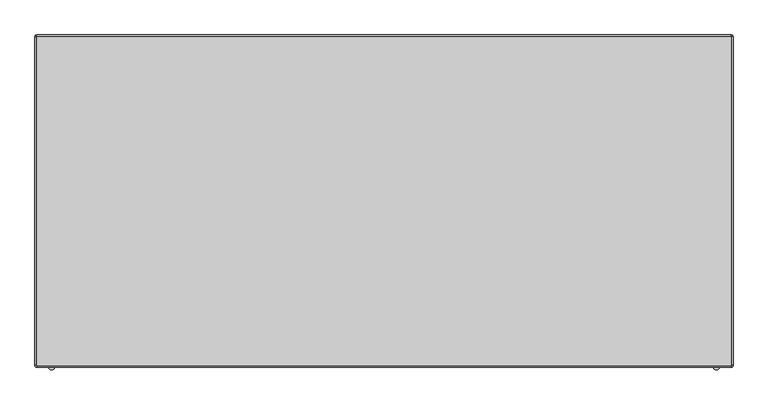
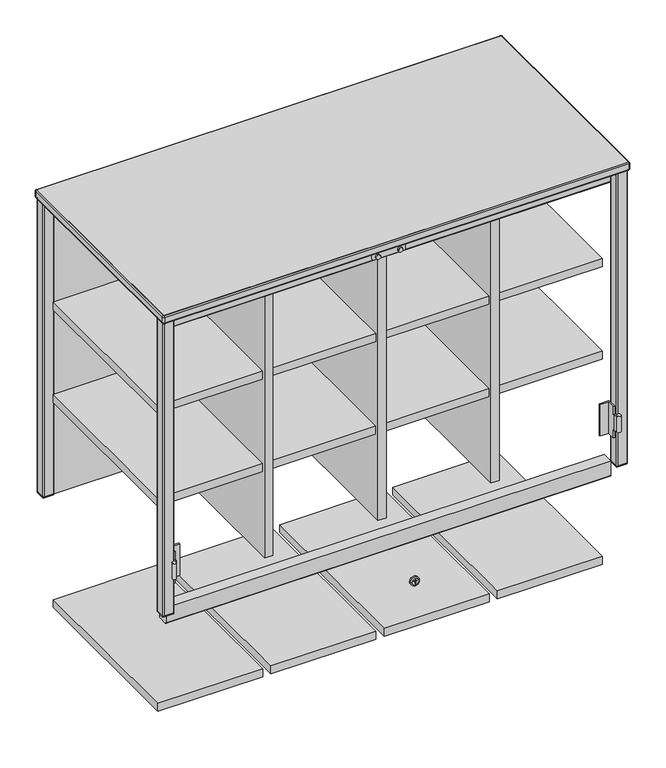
"""IFC4 building model written with IfcOpenShell, lengths in millimetres: furniture geometry, SmithSystem_AM_Storage_Education_Constellate_Stacking_DoubleMidCluster : Upper Cubbies + Lower Cubbies."""

from ifc_helpers import new_model, si_unit, point, frame, frame_2d, origin, place, context, project, spatial, polyline, circle_curve, ellipse_curve, trimmed, segment, composite_curve, outline, extrude, source, transform, mapped, element, save
from ifc_brep_helpers import plane_surface, cylinder_surface, revolved_surface, advanced_brep


def furniture_cb7575b0(model_context):
    return source(origin(), model_context, "Body", "SolidModel", [
        extrude(outline(polyline([(-9.525, -187.96), (-249.2375, -187.96), (-249.2375, 226.06), (-9.525, 226.06), (-9.525, -187.96)])), frame((0.0, 0.0, 1240.79), z_axis=(0.0, 0.0, 1.0), x_axis=(1.0, 0.0, 0.0)), (0.0, 0.0, 1.0), 19.05),
        extrude(outline(polyline([(249.2375, -187.96), (9.525, -187.96), (9.525, 226.06), (249.2375, 226.06), (249.2375, -187.96)])), frame((0.0, 0.0, 1240.79), z_axis=(0.0, 0.0, 1.0), x_axis=(1.0, 0.0, 0.0)), (0.0, 0.0, 1.0), 19.05),
        extrude(outline(polyline([(508.0, -187.96), (268.2875, -187.96), (268.2875, 226.06), (508.0, 226.06), (508.0, -187.96)])), frame((0.0, 0.0, 1240.79), z_axis=(0.0, 0.0, 1.0), x_axis=(1.0, 0.0, 0.0)), (0.0, 0.0, 1.0), 19.05),
        extrude(outline(polyline([(-268.2875, -187.96), (-508.0, -187.96), (-508.0, 226.06), (-268.2875, 226.06), (-268.2875, -187.96)])), frame((0.0, 0.0, 1240.79), z_axis=(0.0, 0.0, 1.0), x_axis=(1.0, 0.0, 0.0)), (0.0, 0.0, 1.0), 19.05),
        advanced_brep(
        [(-504.0801916, -251.2690212, 920.75), (-500.38, -246.38, 920.75), (-500.38, -245.11, 920.75), (-502.92, -245.11, 920.75), (-502.92, -246.38, 920.75), (-505.46, -248.92, 920.75), (-508.0, -248.92, 920.75), (-504.0801916, -251.2690212, 882.65), (-508.0, -248.92, 882.65), (-505.46, -248.92, 882.65), (-502.92, -246.38, 882.65), (-502.92, -245.11, 882.65), (-500.38, -245.11, 882.65), (-500.38, -246.38, 882.65), (-500.38, -245.11, 863.6), (-500.38, -226.06, 863.6), (-500.38, -226.06, 939.8), (-500.38, -245.11, 939.8), (-502.92, -245.11, 939.8), (-502.92, -226.06, 939.8), (-502.92, -226.06, 863.6), (-502.92, -245.11, 863.6), (-500.38, -223.52, 863.6), (-480.06, -223.52, 863.6), (-480.06, -226.06, 863.6), (-500.38, -223.52, 939.8), (-480.06, -226.06, 939.8), (-480.06, -223.52, 939.8)],
        [
            (0, 1, circle_curve(frame((-505.46, -246.38, 920.75), z_axis=(0.0, 0.0, 1.0), x_axis=(0.0, 1.0, 0.0)), 5.08)),
            (1, 2),
            (2, 3),
            (3, 4),
            (4, 5, circle_curve(frame((-505.46, -246.38, 920.75), z_axis=(0.0, 0.0, -1.0), x_axis=(0.0, 1.0, 0.0)), 2.54)),
            (5, 6),
            (6, 0, circle_curve(frame((-508.0, -253.365, 920.75), z_axis=(0.0, 0.0, 1.0), x_axis=(0.0, 1.0, 0.0)), 4.445)),
            (7, 8, circle_curve(frame((-508.0, -253.365, 882.65), z_axis=(0.0, 0.0, -1.0), x_axis=(0.0, 1.0, 0.0)), 4.445)),
            (8, 9),
            (9, 10, circle_curve(frame((-505.46, -246.38, 882.65), z_axis=(0.0, 0.0, 1.0), x_axis=(0.0, 1.0, 0.0)), 2.54)),
            (10, 11),
            (11, 12),
            (12, 13),
            (13, 7, circle_curve(frame((-505.46, -246.38, 882.65), z_axis=(0.0, 0.0, -1.0), x_axis=(0.0, 1.0, 0.0)), 5.08)),
            (0, 7),
            (13, 1),
            (12, 14),
            (14, 15),
            (15, 16),
            (16, 17),
            (17, 2),
            (10, 4),
            (3, 18),
            (18, 19),
            (19, 20),
            (20, 21),
            (21, 11),
            (9, 5),
            (8, 6),
            (22, 23),
            (23, 24),
            (24, 15),
            (14, 21),
            (20, 22, circle_curve(frame((-500.38, -226.06, 863.6), z_axis=(0.0, 0.0, -1.0), x_axis=(0.0, 1.0, 0.0)), 2.54)),
            (25, 19, circle_curve(frame((-500.38, -226.06, 939.8), z_axis=(0.0, 0.0, 1.0), x_axis=(0.0, 1.0, 0.0)), 2.54)),
            (18, 17),
            (16, 26),
            (26, 27),
            (27, 25),
            (25, 22),
            (24, 26),
            (23, 27),
        ],
        [
            plane_surface(frame((-508.0, -248.92, 920.75), z_axis=(0.0, 0.0, 1.0), x_axis=(-1.0, 0.0, 0.0))),
            plane_surface(frame((-508.0, -248.92, 882.65), z_axis=(0.0, 0.0, -1.0), x_axis=(1.0, 0.0, 0.0))),
            cylinder_surface(frame((-505.46, -246.38, 920.75), z_axis=(0.0, 0.0, -1.0), x_axis=(0.0, 1.0, 0.0)), 5.08),
            plane_surface(frame((-500.38, -236.22, 882.65), z_axis=(1.0, 0.0, 0.0), x_axis=(0.0, 0.0, 1.0))),
            plane_surface(frame((-502.92, -246.38, 882.65), z_axis=(-1.0, 0.0, 0.0), x_axis=(0.0, 0.0, 1.0))),
            revolved_surface(polyline([(-505.46, -243.84, 920.75), (-505.46, -243.84, 882.65)]), (-505.46, -246.38, 920.75), (0.0, 0.0, 1.0)),
            plane_surface(frame((-508.0, -248.92, 882.65), z_axis=(0.0, 1.0, 0.0), x_axis=(0.0, 0.0, 1.0))),
            cylinder_surface(frame((-508.0, -253.365, 920.75), z_axis=(0.0, 0.0, -1.0), x_axis=(0.0, 1.0, 0.0)), 4.445),
            plane_surface(frame((500.38, -223.52, 863.6), z_axis=(0.0, 0.0, -1.0), x_axis=(1.0, 0.0, 0.0))),
            plane_surface(frame((500.38, -223.52, 939.8), z_axis=(0.0, 0.0, 1.0), x_axis=(-1.0, 0.0, 0.0))),
            cylinder_surface(frame((-500.38, -226.06, 882.65), z_axis=(0.0, 0.0, -1.0), x_axis=(0.0, 1.0, 0.0)), 2.54),
            plane_surface(frame((-500.38, -245.11, 863.6), z_axis=(0.0, -1.0, 0.0), x_axis=(0.0, 0.0, 1.0))),
            plane_surface(frame((-480.06, -226.06, 863.6), z_axis=(0.0, -1.0, 0.0), x_axis=(0.0, 0.0, 1.0))),
            plane_surface(frame((-480.06, -223.52, 863.6), z_axis=(1.0, 0.0, 0.0), x_axis=(0.0, 0.0, 1.0))),
            plane_surface(frame((-500.38, -223.52, 863.6), z_axis=(0.0, 1.0, 0.0), x_axis=(0.0, 0.0, 1.0))),
        ],
        [
            (0, [[1, 2, 3, 4, 5, 6, 7]]),
            (1, [[8, 9, 10, 11, 12, 13, 14]]),
            (2, [[-1, 15, -14, 16]]),
            (3, [[-16, -13, 17, 18, 19, 20, 21, -2]]),
            (4, [[22, -4, 23, 24, 25, 26, 27, -11]]),
            (5, [[-5, -22, -10, 28]]),
            (6, [[-6, -28, -9, 29]]),
            (7, [[-7, -29, -8, -15]]),
            (8, [[30, 31, 32, -18, 33, -26, 34]]),
            (9, [[35, -24, 36, -20, 37, 38, 39]]),
            (10, [[-34, -25, -35, 40]]),
            (11, [[-33, -17, -12, -27]]),
            (11, [[-36, -23, -3, -21]]),
            (12, [[-32, 41, -37, -19]]),
            (13, [[-31, 42, -38, -41]]),
            (14, [[-30, -40, -39, -42]]),
        ],
    ),
        advanced_brep(
        [(504.0801916, -251.2690212, 920.75), (508.0, -248.92, 920.75), (505.46, -248.92, 920.75), (502.92, -246.38, 920.75), (502.92, -245.11, 920.75), (500.38, -245.11, 920.75), (500.38, -246.38, 920.75), (504.0801916, -251.2690212, 882.65), (500.38, -246.38, 882.65), (500.38, -245.11, 882.65), (502.92, -245.11, 882.65), (502.92, -246.38, 882.65), (505.46, -248.92, 882.65), (508.0, -248.92, 882.65), (502.92, -245.11, 863.6), (502.92, -226.06, 863.6), (502.92, -226.06, 939.8), (502.92, -245.11, 939.8), (500.38, -245.11, 939.8), (500.38, -226.06, 939.8), (500.38, -226.06, 863.6), (500.38, -245.11, 863.6), (500.38, -223.52, 863.6), (480.06, -226.06, 863.6), (480.06, -223.52, 863.6), (500.38, -223.52, 939.8), (480.06, -223.52, 939.8), (480.06, -226.06, 939.8)],
        [
            (0, 1, circle_curve(frame((508.0, -253.365, 920.75), z_axis=(0.0, 0.0, 1.0), x_axis=(0.0, 1.0, 0.0)), 4.445)),
            (1, 2),
            (2, 3, circle_curve(frame((505.46, -246.38, 920.75), z_axis=(0.0, 0.0, -1.0), x_axis=(0.0, 1.0, 0.0)), 2.54)),
            (3, 4),
            (4, 5),
            (5, 6),
            (6, 0, circle_curve(frame((505.46, -246.38, 920.75), z_axis=(0.0, 0.0, 1.0), x_axis=(0.0, 1.0, 0.0)), 5.08)),
            (7, 8, circle_curve(frame((505.46, -246.38, 882.65), z_axis=(0.0, 0.0, -1.0), x_axis=(0.0, 1.0, 0.0)), 5.08)),
            (8, 9),
            (9, 10),
            (10, 11),
            (11, 12, circle_curve(frame((505.46, -246.38, 882.65), z_axis=(0.0, 0.0, 1.0), x_axis=(0.0, 1.0, 0.0)), 2.54)),
            (12, 13),
            (13, 7, circle_curve(frame((508.0, -253.365, 882.65), z_axis=(0.0, 0.0, -1.0), x_axis=(0.0, 1.0, 0.0)), 4.445)),
            (0, 7),
            (13, 1),
            (12, 2),
            (11, 3),
            (10, 14),
            (14, 15),
            (15, 16),
            (16, 17),
            (17, 4),
            (8, 6),
            (5, 18),
            (18, 19),
            (19, 20),
            (20, 21),
            (21, 9),
            (22, 15, circle_curve(frame((500.38, -226.06, 863.6), z_axis=(0.0, 0.0, -1.0), x_axis=(0.0, 1.0, 0.0)), 2.54)),
            (14, 21),
            (20, 23),
            (23, 24),
            (24, 22),
            (25, 26),
            (26, 27),
            (27, 19),
            (18, 17),
            (16, 25, circle_curve(frame((500.38, -226.06, 939.8), z_axis=(0.0, 0.0, 1.0), x_axis=(0.0, 1.0, 0.0)), 2.54)),
            (24, 26),
            (25, 22),
            (23, 27),
        ],
        [
            plane_surface(frame((-508.0, -248.92, 920.75), z_axis=(0.0, 0.0, 1.0), x_axis=(-1.0, 0.0, 0.0))),
            plane_surface(frame((-508.0, -248.92, 882.65), z_axis=(0.0, 0.0, -1.0), x_axis=(1.0, 0.0, 0.0))),
            cylinder_surface(frame((508.0, -253.365, 863.6), z_axis=(0.0, 0.0, -1.0), x_axis=(0.0, 1.0, 0.0)), 4.445),
            plane_surface(frame((505.46, -248.92, 882.65), z_axis=(0.0, 1.0, 0.0), x_axis=(0.0, 0.0, 1.0))),
            revolved_surface(polyline([(505.46, -243.84, 920.75), (505.46, -243.84, 882.65)]), (505.46, -246.38, 863.6), (0.0, 0.0, 1.0)),
            plane_surface(frame((502.92, -236.22, 882.65), z_axis=(1.0, 0.0, 0.0), x_axis=(0.0, 0.0, 1.0))),
            plane_surface(frame((500.38, -246.38, 882.65), z_axis=(-1.0, 0.0, 0.0), x_axis=(0.0, 0.0, 1.0))),
            cylinder_surface(frame((505.46, -246.38, 863.6), z_axis=(0.0, 0.0, -1.0), x_axis=(0.0, 1.0, 0.0)), 5.08),
            plane_surface(frame((500.38, -223.52, 863.6), z_axis=(0.0, 0.0, -1.0), x_axis=(1.0, 0.0, 0.0))),
            plane_surface(frame((500.38, -223.52, 939.8), z_axis=(0.0, 0.0, 1.0), x_axis=(-1.0, 0.0, 0.0))),
            plane_surface(frame((480.06, -223.52, 863.6), z_axis=(0.0, 1.0, 0.0), x_axis=(0.0, 0.0, 1.0))),
            plane_surface(frame((480.06, -226.06, 863.6), z_axis=(-1.0, 0.0, 0.0), x_axis=(0.0, 0.0, 1.0))),
            plane_surface(frame((500.38, -226.06, 863.6), z_axis=(0.0, -1.0, 0.0), x_axis=(0.0, 0.0, 1.0))),
            plane_surface(frame((502.92, -245.11, 863.6), z_axis=(0.0, -1.0, 0.0), x_axis=(0.0, 0.0, 1.0))),
            cylinder_surface(frame((500.38, -226.06, 939.8), z_axis=(0.0, 0.0, -1.0), x_axis=(0.0, 1.0, 0.0)), 2.54),
        ],
        [
            (0, [[1, 2, 3, 4, 5, 6, 7]]),
            (1, [[8, 9, 10, 11, 12, 13, 14]]),
            (2, [[-1, 15, -14, 16]]),
            (3, [[-2, -16, -13, 17]]),
            (4, [[-3, -17, -12, 18]]),
            (5, [[-18, -11, 19, 20, 21, 22, 23, -4]]),
            (6, [[24, -6, 25, 26, 27, 28, 29, -9]]),
            (7, [[-7, -24, -8, -15]]),
            (8, [[30, -20, 31, -28, 32, 33, 34]]),
            (9, [[35, 36, 37, -26, 38, -22, 39]]),
            (10, [[-34, 40, -35, 41]]),
            (11, [[-33, 42, -36, -40]]),
            (12, [[-32, -27, -37, -42]]),
            (13, [[-31, -19, -10, -29]]),
            (13, [[-38, -25, -5, -23]]),
            (14, [[-30, -41, -39, -21]]),
        ],
    ),
        extrude(outline(composite_curve([segment(trimmed(circle_curve(frame_2d((-218.44, 1466.85)), 2.54), [point((-218.44, 1464.31))], [point((-220.98, 1466.85))], False, "CARTESIAN"), True, "CONTINUOUS"), segment(polyline([(-220.98, 1466.85), (-220.98, 1504.95), (-195.58, 1504.95), (-195.58, 1466.85)]), True, "CONTINUOUS"), segment(trimmed(circle_curve(frame_2d((-198.12, 1466.85)), 2.54), [point((-195.58, 1466.85))], [point((-198.12, 1464.31))], False, "CARTESIAN"), True, "CONTINUOUS"), segment(polyline([(-198.12, 1464.31), (-218.44, 1464.31)]), True, "CONTINUOUS")], self_intersect=False)), frame((-508.0, 0.0, 0.0), z_axis=(1.0, 0.0, 0.0), x_axis=(0.0, 1.0, 0.0)), (0.0, 0.0, 1.0), 1016.0),
        extrude(outline(composite_curve([segment(polyline([(-220.98, 791.21), (-195.58, 791.21), (-195.58, 755.65)]), True, "CONTINUOUS"), segment(trimmed(circle_curve(frame_2d((-198.12, 755.65)), 2.54), [point((-195.58, 755.65))], [point((-198.12, 753.11))], False, "CARTESIAN"), True, "CONTINUOUS"), segment(polyline([(-198.12, 753.11), (-218.44, 753.11)]), True, "CONTINUOUS"), segment(trimmed(circle_curve(frame_2d((-218.44, 755.65)), 2.54), [point((-218.44, 753.11))], [point((-220.98, 755.65))], False, "CARTESIAN"), True, "CONTINUOUS"), segment(polyline([(-220.98, 755.65), (-220.98, 791.21)]), True, "CONTINUOUS")], self_intersect=False)), frame((-508.0, 0.0, 0.0), z_axis=(1.0, 0.0, 0.0), x_axis=(0.0, 1.0, 0.0)), (0.0, 0.0, 1.0), 1016.0),
        extrude(outline(polyline([(-9.525, -187.96), (-249.2375, -187.96), (-249.2375, 226.06), (-9.525, 226.06), (-9.525, -187.96)])), frame((0.0, 0.0, 521.1191), z_axis=(0.0, 0.0, 1.0), x_axis=(1.0, 0.0, 0.0)), (0.0, 0.0, 1.0), 19.05),
        extrude(outline(polyline([(249.2375, -187.96), (9.525, -187.96), (9.525, 226.06), (249.2375, 226.06), (249.2375, -187.96)])), frame((0.0, 0.0, 521.1191), z_axis=(0.0, 0.0, 1.0), x_axis=(1.0, 0.0, 0.0)), (0.0, 0.0, 1.0), 19.05),
        extrude(outline(polyline([(508.0, -187.96), (268.2875, -187.96), (268.2875, 226.06), (508.0, 226.06), (508.0, -187.96)])), frame((0.0, 0.0, 521.1191), z_axis=(0.0, 0.0, 1.0), x_axis=(1.0, 0.0, 0.0)), (0.0, 0.0, 1.0), 19.05),
        extrude(outline(polyline([(-268.2875, -187.96), (-508.0, -187.96), (-508.0, 226.06), (-268.2875, 226.06), (-268.2875, -187.96)])), frame((0.0, 0.0, 521.1191), z_axis=(0.0, 0.0, 1.0), x_axis=(1.0, 0.0, 0.0)), (0.0, 0.0, 1.0), 19.05),
        extrude(outline(polyline([(-268.2875, -195.58), (-268.2875, 226.06), (-249.2375, 226.06), (-249.2375, -195.58), (-268.2875, -195.58)])), frame((0.0, 0.0, 812.8), z_axis=(0.0, 0.0, 1.0), x_axis=(1.0, 0.0, 0.0)), (0.0, 0.0, 1.0), 692.15),
        extrude(outline(polyline([(-9.525, -195.58), (-9.525, 226.06), (9.525, 226.06), (9.525, -195.58), (-9.525, -195.58)])), frame((0.0, 0.0, 812.8), z_axis=(0.0, 0.0, 1.0), x_axis=(1.0, 0.0, 0.0)), (0.0, 0.0, 1.0), 692.15),
        extrude(outline(polyline([(249.2375, -195.58), (249.2375, 226.06), (268.2875, 226.06), (268.2875, -195.58), (249.2375, -195.58)])), frame((0.0, 0.0, 812.8), z_axis=(0.0, 0.0, 1.0), x_axis=(1.0, 0.0, 0.0)), (0.0, 0.0, 1.0), 692.15),
        extrude(outline(polyline([(-9.525, -187.96), (-249.2375, -187.96), (-249.2375, 226.06), (-9.525, 226.06), (-9.525, -187.96)])), frame((0.0, 0.0, 1017.27), z_axis=(0.0, 0.0, 1.0), x_axis=(1.0, 0.0, 0.0)), (0.0, 0.0, 1.0), 19.05),
        extrude(outline(polyline([(249.2375, -187.96), (9.525, -187.96), (9.525, 226.06), (249.2375, 226.06), (249.2375, -187.96)])), frame((0.0, 0.0, 1017.27), z_axis=(0.0, 0.0, 1.0), x_axis=(1.0, 0.0, 0.0)), (0.0, 0.0, 1.0), 19.05),
        extrude(outline(polyline([(508.0, -187.96), (268.2875, -187.96), (268.2875, 226.06), (508.0, 226.06), (508.0, -187.96)])), frame((0.0, 0.0, 1017.27), z_axis=(0.0, 0.0, 1.0), x_axis=(1.0, 0.0, 0.0)), (0.0, 0.0, 1.0), 19.05),
        extrude(outline(polyline([(-268.2875, -187.96), (-508.0, -187.96), (-508.0, 226.06), (-268.2875, 226.06), (-268.2875, -187.96)])), frame((0.0, 0.0, 1017.27), z_axis=(0.0, 0.0, 1.0), x_axis=(1.0, 0.0, 0.0)), (0.0, 0.0, 1.0), 19.05),
        extrude(outline(polyline([(-505.46, 228.6), (-505.46, 247.65), (505.46, 247.65), (505.46, 228.6), (-505.46, 228.6)])), frame((0.0, 0.0, 793.75), z_axis=(0.0, 0.0, 1.0), x_axis=(1.0, 0.0, 0.0)), (0.0, 0.0, 1.0), 711.2),
        extrude(outline(composite_curve([segment(polyline([(-528.32, -223.52), (-508.0, -223.52)]), True, "CONTINUOUS"), segment(trimmed(circle_curve(frame_2d((-508.0, -226.06)), 2.54), [point((-508.0, -223.52))], [point((-505.46, -226.06))], False, "CARTESIAN"), True, "CONTINUOUS"), segment(polyline([(-505.46, -226.06), (-505.46, -246.38)]), True, "CONTINUOUS"), segment(trimmed(circle_curve(frame_2d((-508.0, -246.38)), 2.54), [point((-505.46, -246.38))], [point((-508.0, -248.92))], False, "CARTESIAN"), True, "CONTINUOUS"), segment(polyline([(-508.0, -248.92), (-528.32, -248.92)]), True, "CONTINUOUS"), segment(trimmed(circle_curve(frame_2d((-528.32, -246.38)), 2.54), [point((-528.32, -248.92))], [point((-530.86, -246.38))], False, "CARTESIAN"), True, "CONTINUOUS"), segment(polyline([(-530.86, -246.38), (-530.86, -226.06)]), True, "CONTINUOUS"), segment(trimmed(circle_curve(frame_2d((-528.32, -226.06)), 2.54), [point((-530.86, -226.06))], [point((-528.32, -223.52))], False, "CARTESIAN"), True, "CONTINUOUS")], self_intersect=False)), frame((0.0, 0.0, 796.29), z_axis=(0.0, 0.0, 1.0), x_axis=(1.0, 0.0, 0.0)), (0.0, 0.0, 1.0), 708.66),
        extrude(outline(composite_curve([segment(polyline([(530.86, 248.92), (530.86, 228.6)]), True, "CONTINUOUS"), segment(trimmed(circle_curve(frame_2d((528.32, 228.6)), 2.54), [point((530.86, 228.6))], [point((528.32, 226.06))], False, "CARTESIAN"), True, "CONTINUOUS"), segment(polyline([(528.32, 226.06), (508.0, 226.06)]), True, "CONTINUOUS"), segment(trimmed(circle_curve(frame_2d((508.0, 228.6)), 2.54), [point((508.0, 226.06))], [point((505.46, 228.6))], False, "CARTESIAN"), True, "CONTINUOUS"), segment(polyline([(505.46, 228.6), (505.46, 248.92)]), True, "CONTINUOUS"), segment(trimmed(circle_curve(frame_2d((508.0, 248.92)), 2.54), [point((505.46, 248.92))], [point((508.0, 251.46))], False, "CARTESIAN"), True, "CONTINUOUS"), segment(polyline([(508.0, 251.46), (528.32, 251.46)]), True, "CONTINUOUS"), segment(trimmed(circle_curve(frame_2d((528.32, 248.92)), 2.54), [point((528.32, 251.46))], [point((530.86, 248.92))], False, "CARTESIAN"), True, "CONTINUOUS")], self_intersect=False)), frame((0.0, 0.0, 796.29), z_axis=(0.0, 0.0, 1.0), x_axis=(1.0, 0.0, 0.0)), (0.0, 0.0, 1.0), 708.66),
        extrude(outline(composite_curve([segment(trimmed(circle_curve(frame_2d((528.32, -226.06)), 2.54), [point((528.32, -223.52))], [point((530.86, -226.06))], False, "CARTESIAN"), True, "CONTINUOUS"), segment(polyline([(530.86, -226.06), (530.86, -246.38)]), True, "CONTINUOUS"), segment(trimmed(circle_curve(frame_2d((528.32, -246.38)), 2.54), [point((530.86, -246.38))], [point((528.32, -248.92))], False, "CARTESIAN"), True, "CONTINUOUS"), segment(polyline([(528.32, -248.92), (508.0, -248.92)]), True, "CONTINUOUS"), segment(trimmed(circle_curve(frame_2d((508.0, -246.38)), 2.54), [point((508.0, -248.92))], [point((505.46, -246.38))], False, "CARTESIAN"), True, "CONTINUOUS"), segment(polyline([(505.46, -246.38), (505.46, -226.06)]), True, "CONTINUOUS"), segment(trimmed(circle_curve(frame_2d((508.0, -226.06)), 2.54), [point((505.46, -226.06))], [point((508.0, -223.52))], False, "CARTESIAN"), True, "CONTINUOUS"), segment(polyline([(508.0, -223.52), (528.32, -223.52)]), True, "CONTINUOUS")], self_intersect=False)), frame((0.0, 0.0, 796.29), z_axis=(0.0, 0.0, 1.0), x_axis=(1.0, 0.0, 0.0)), (0.0, 0.0, 1.0), 708.66),
        extrude(outline(composite_curve([segment(trimmed(circle_curve(frame_2d((-528.32, 248.92)), 2.54), [point((-530.86, 248.92))], [point((-528.32, 251.46))], False, "CARTESIAN"), True, "CONTINUOUS"), segment(polyline([(-528.32, 251.46), (-508.0, 251.46)]), True, "CONTINUOUS"), segment(trimmed(circle_curve(frame_2d((-508.0, 248.92)), 2.54), [point((-508.0, 251.46))], [point((-505.46, 248.92))], False, "CARTESIAN"), True, "CONTINUOUS"), segment(polyline([(-505.46, 248.92), (-505.46, 228.6)]), True, "CONTINUOUS"), segment(trimmed(circle_curve(frame_2d((-508.0, 228.6)), 2.54), [point((-505.46, 228.6))], [point((-508.0, 226.06))], False, "CARTESIAN"), True, "CONTINUOUS"), segment(polyline([(-508.0, 226.06), (-528.32, 226.06)]), True, "CONTINUOUS"), segment(trimmed(circle_curve(frame_2d((-528.32, 228.6)), 2.54), [point((-528.32, 226.06))], [point((-530.86, 228.6))], False, "CARTESIAN"), True, "CONTINUOUS"), segment(polyline([(-530.86, 228.6), (-530.86, 248.92)]), True, "CONTINUOUS")], self_intersect=False)), frame((0.0, 0.0, 796.29), z_axis=(0.0, 0.0, 1.0), x_axis=(1.0, 0.0, 0.0)), (0.0, 0.0, 1.0), 708.66),
        extrude(outline(composite_curve([segment(polyline([(-528.32, -223.52), (-508.0, -223.52)]), True, "CONTINUOUS"), segment(trimmed(circle_curve(frame_2d((-508.0, -226.06)), 2.54), [point((-508.0, -223.52))], [point((-505.46, -226.06))], False, "CARTESIAN"), True, "CONTINUOUS"), segment(polyline([(-505.46, -226.06), (-505.46, -246.38)]), True, "CONTINUOUS"), segment(trimmed(circle_curve(frame_2d((-508.0, -246.38)), 2.54), [point((-505.46, -246.38))], [point((-508.0, -248.92))], False, "CARTESIAN"), True, "CONTINUOUS"), segment(polyline([(-508.0, -248.92), (-528.32, -248.92)]), True, "CONTINUOUS"), segment(trimmed(circle_curve(frame_2d((-528.32, -246.38)), 2.54), [point((-528.32, -248.92))], [point((-530.86, -246.38))], False, "CARTESIAN"), True, "CONTINUOUS"), segment(polyline([(-530.86, -246.38), (-530.86, -226.06)]), True, "CONTINUOUS"), segment(trimmed(circle_curve(frame_2d((-528.32, -226.06)), 2.54), [point((-530.86, -226.06))], [point((-528.32, -223.52))], False, "CARTESIAN"), True, "CONTINUOUS")], self_intersect=False)), frame((0.0, 0.0, 793.75), z_axis=(0.0, 0.0, 1.0), x_axis=(1.0, 0.0, 0.0)), (0.0, 0.0, 1.0), 2.54),
        extrude(outline(composite_curve([segment(polyline([(530.86, 248.92), (530.86, 228.6)]), True, "CONTINUOUS"), segment(trimmed(circle_curve(frame_2d((528.32, 228.6)), 2.54), [point((530.86, 228.6))], [point((528.32, 226.06))], False, "CARTESIAN"), True, "CONTINUOUS"), segment(polyline([(528.32, 226.06), (508.0, 226.06)]), True, "CONTINUOUS"), segment(trimmed(circle_curve(frame_2d((508.0, 228.6)), 2.54), [point((508.0, 226.06))], [point((505.46, 228.6))], False, "CARTESIAN"), True, "CONTINUOUS"), segment(polyline([(505.46, 228.6), (505.46, 248.92)]), True, "CONTINUOUS"), segment(trimmed(circle_curve(frame_2d((508.0, 248.92)), 2.54), [point((505.46, 248.92))], [point((508.0, 251.46))], False, "CARTESIAN"), True, "CONTINUOUS"), segment(polyline([(508.0, 251.46), (528.32, 251.46)]), True, "CONTINUOUS"), segment(trimmed(circle_curve(frame_2d((528.32, 248.92)), 2.54), [point((528.32, 251.46))], [point((530.86, 248.92))], False, "CARTESIAN"), True, "CONTINUOUS")], self_intersect=False)), frame((0.0, 0.0, 793.75), z_axis=(0.0, 0.0, 1.0), x_axis=(1.0, 0.0, 0.0)), (0.0, 0.0, 1.0), 2.54),
        extrude(outline(composite_curve([segment(trimmed(circle_curve(frame_2d((528.32, -226.06)), 2.54), [point((528.32, -223.52))], [point((530.86, -226.06))], False, "CARTESIAN"), True, "CONTINUOUS"), segment(polyline([(530.86, -226.06), (530.86, -246.38)]), True, "CONTINUOUS"), segment(trimmed(circle_curve(frame_2d((528.32, -246.38)), 2.54), [point((530.86, -246.38))], [point((528.32, -248.92))], False, "CARTESIAN"), True, "CONTINUOUS"), segment(polyline([(528.32, -248.92), (508.0, -248.92)]), True, "CONTINUOUS"), segment(trimmed(circle_curve(frame_2d((508.0, -246.38)), 2.54), [point((508.0, -248.92))], [point((505.46, -246.38))], False, "CARTESIAN"), True, "CONTINUOUS"), segment(polyline([(505.46, -246.38), (505.46, -226.06)]), True, "CONTINUOUS"), segment(trimmed(circle_curve(frame_2d((508.0, -226.06)), 2.54), [point((505.46, -226.06))], [point((508.0, -223.52))], False, "CARTESIAN"), True, "CONTINUOUS"), segment(polyline([(508.0, -223.52), (528.32, -223.52)]), True, "CONTINUOUS")], self_intersect=False)), frame((0.0, 0.0, 793.75), z_axis=(0.0, 0.0, 1.0), x_axis=(1.0, 0.0, 0.0)), (0.0, 0.0, 1.0), 2.54),
        extrude(outline(composite_curve([segment(trimmed(circle_curve(frame_2d((-528.32, 248.92)), 2.54), [point((-530.86, 248.92))], [point((-528.32, 251.46))], False, "CARTESIAN"), True, "CONTINUOUS"), segment(polyline([(-528.32, 251.46), (-508.0, 251.46)]), True, "CONTINUOUS"), segment(trimmed(circle_curve(frame_2d((-508.0, 248.92)), 2.54), [point((-508.0, 251.46))], [point((-505.46, 248.92))], False, "CARTESIAN"), True, "CONTINUOUS"), segment(polyline([(-505.46, 248.92), (-505.46, 228.6)]), True, "CONTINUOUS"), segment(trimmed(circle_curve(frame_2d((-508.0, 228.6)), 2.54), [point((-505.46, 228.6))], [point((-508.0, 226.06))], False, "CARTESIAN"), True, "CONTINUOUS"), segment(polyline([(-508.0, 226.06), (-528.32, 226.06)]), True, "CONTINUOUS"), segment(trimmed(circle_curve(frame_2d((-528.32, 228.6)), 2.54), [point((-528.32, 226.06))], [point((-530.86, 228.6))], False, "CARTESIAN"), True, "CONTINUOUS"), segment(polyline([(-530.86, 228.6), (-530.86, 248.92)]), True, "CONTINUOUS")], self_intersect=False)), frame((0.0, 0.0, 793.75), z_axis=(0.0, 0.0, 1.0), x_axis=(1.0, 0.0, 0.0)), (0.0, 0.0, 1.0), 2.54),
        extrude(outline(composite_curve([segment(polyline([(-530.86, -250.952), (-530.86, 250.952)]), True, "CONTINUOUS"), segment(trimmed(circle_curve(frame_2d((-530.352, 250.952)), 0.508), [point((-530.86, 250.952))], [point((-530.352, 251.46))], False, "CARTESIAN"), True, "CONTINUOUS"), segment(polyline([(-530.352, 251.46), (530.352, 251.46)]), True, "CONTINUOUS"), segment(trimmed(circle_curve(frame_2d((530.352, 250.952)), 0.508), [point((530.352, 251.46))], [point((530.86, 250.952))], False, "CARTESIAN"), True, "CONTINUOUS"), segment(polyline([(530.86, 250.952), (530.86, -250.952)]), True, "CONTINUOUS"), segment(trimmed(circle_curve(frame_2d((530.352, -250.952)), 0.508), [point((530.86, -250.952))], [point((530.352, -251.46))], False, "CARTESIAN"), True, "CONTINUOUS"), segment(polyline([(530.352, -251.46), (-530.352, -251.46)]), True, "CONTINUOUS"), segment(trimmed(circle_curve(frame_2d((-530.352, -250.952)), 0.508), [point((-530.352, -251.46))], [point((-530.86, -250.952))], False, "CARTESIAN"), True, "CONTINUOUS")], self_intersect=False)), frame((0.0, 0.0, 1504.95), z_axis=(0.0, 0.0, 1.0), x_axis=(1.0, 0.0, 0.0)), (0.0, 0.0, 1.0), 19.05),
        advanced_brep(
        [(-530.352, -251.46, 1524.0), (-530.86, -250.952, 1524.0), (-533.4, -250.952, 1521.46), (-530.352, -254.0, 1521.46), (-530.352, -251.46, 1504.95), (-530.86, -250.952, 1504.95), (-530.352, -254.0, 1507.49), (-533.4, -250.952, 1507.49), (530.352, -254.0, 1521.46), (530.352, -251.46, 1524.0), (530.352, -251.46, 1504.95), (530.352, -254.0, 1507.49), (530.86, -250.952, 1524.0), (533.4, -250.952, 1521.46), (530.86, -250.952, 1504.95), (533.4, -250.952, 1507.49), (533.4, 250.952, 1521.46), (530.86, 250.952, 1524.0), (530.86, 250.952, 1504.95), (533.4, 250.952, 1507.49), (530.352, 251.46, 1524.0), (530.352, 254.0, 1521.46), (530.352, 251.46, 1504.95), (530.352, 254.0, 1507.49), (-530.352, 254.0, 1521.46), (-530.352, 251.46, 1524.0), (-530.352, 251.46, 1504.95), (-530.352, 254.0, 1507.49), (-530.86, 250.952, 1524.0), (-533.4, 250.952, 1521.46), (-530.86, 250.952, 1504.95), (-533.4, 250.952, 1507.49)],
        [
            (0, 1, circle_curve(frame((-530.352, -250.952, 1524.0), z_axis=(0.0, 0.0, -1.0), x_axis=(-1.0, 0.0, 0.0)), 0.508)),
            (1, 2, circle_curve(frame((-530.86, -250.952, 1521.46), z_axis=(0.0, -1.0, 0.0), x_axis=(1.0, 0.0, 0.0)), 2.54)),
            (2, 3, circle_curve(frame((-530.352, -250.952, 1521.46), z_axis=(0.0, 0.0, 1.0), x_axis=(-1.0, 0.0, 0.0)), 3.048)),
            (3, 0, circle_curve(frame((-530.352, -251.46, 1521.46), z_axis=(-1.0, 0.0, 0.0), x_axis=(0.0, 1.0, 0.0)), 2.54)),
            (4, 5, circle_curve(frame((-530.352, -250.952, 1504.95), z_axis=(0.0, 0.0, -1.0), x_axis=(-1.0, 0.0, 0.0)), 0.508)),
            (5, 1),
            (0, 4),
            (6, 7, circle_curve(frame((-530.352, -250.952, 1507.49), z_axis=(0.0, 0.0, -1.0), x_axis=(-1.0, 0.0, 0.0)), 3.048)),
            (7, 5, circle_curve(frame((-530.86, -250.952, 1507.49), z_axis=(0.0, -1.0, 0.0), x_axis=(1.0, 0.0, 0.0)), 2.54)),
            (4, 6, circle_curve(frame((-530.352, -251.46, 1507.49), z_axis=(-1.0, 0.0, 0.0), x_axis=(0.0, 1.0, 0.0)), 2.54)),
            (2, 7),
            (6, 3),
            (3, 8),
            (8, 9, circle_curve(frame((530.352, -251.46, 1521.46), z_axis=(-1.0, 0.0, 0.0), x_axis=(0.0, 1.0, 0.0)), 2.54)),
            (9, 0),
            (9, 10),
            (10, 4),
            (10, 11, circle_curve(frame((530.352, -251.46, 1507.49), z_axis=(-1.0, 0.0, 0.0), x_axis=(0.0, 1.0, 0.0)), 2.54)),
            (11, 6),
            (11, 8),
            (12, 9, circle_curve(frame((530.352, -250.952, 1524.0), z_axis=(0.0, 0.0, -1.0), x_axis=(0.0, -1.0, 0.0)), 0.508)),
            (8, 13, circle_curve(frame((530.352, -250.952, 1521.46), z_axis=(0.0, 0.0, 1.0), x_axis=(0.0, -1.0, 0.0)), 3.048)),
            (13, 12, circle_curve(frame((530.86, -250.952, 1521.46), z_axis=(0.0, -1.0, 0.0), x_axis=(-1.0, 0.0, 0.0)), 2.54)),
            (14, 10, circle_curve(frame((530.352, -250.952, 1504.95), z_axis=(0.0, 0.0, -1.0), x_axis=(0.0, -1.0, 0.0)), 0.508)),
            (12, 14),
            (15, 11, circle_curve(frame((530.352, -250.952, 1507.49), z_axis=(0.0, 0.0, -1.0), x_axis=(0.0, -1.0, 0.0)), 3.048)),
            (14, 15, circle_curve(frame((530.86, -250.952, 1507.49), z_axis=(0.0, -1.0, 0.0), x_axis=(-1.0, 0.0, 0.0)), 2.54)),
            (15, 13),
            (13, 16),
            (16, 17, circle_curve(frame((530.86, 250.952, 1521.46), z_axis=(0.0, -1.0, 0.0), x_axis=(-1.0, 0.0, 0.0)), 2.54)),
            (17, 12),
            (17, 18),
            (18, 14),
            (18, 19, circle_curve(frame((530.86, 250.952, 1507.49), z_axis=(0.0, -1.0, 0.0), x_axis=(-1.0, 0.0, 0.0)), 2.54)),
            (19, 15),
            (19, 16),
            (20, 17, circle_curve(frame((530.352, 250.952, 1524.0), z_axis=(0.0, 0.0, -1.0), x_axis=(1.0, 0.0, 0.0)), 0.508)),
            (16, 21, circle_curve(frame((530.352, 250.952, 1521.46), z_axis=(0.0, 0.0, 1.0), x_axis=(1.0, 0.0, 0.0)), 3.048)),
            (21, 20, circle_curve(frame((530.352, 251.46, 1521.46), z_axis=(1.0, 0.0, 0.0), x_axis=(0.0, -1.0, 0.0)), 2.54)),
            (22, 18, circle_curve(frame((530.352, 250.952, 1504.95), z_axis=(0.0, 0.0, -1.0), x_axis=(1.0, 0.0, 0.0)), 0.508)),
            (20, 22),
            (23, 19, circle_curve(frame((530.352, 250.952, 1507.49), z_axis=(0.0, 0.0, -1.0), x_axis=(1.0, 0.0, 0.0)), 3.048)),
            (22, 23, circle_curve(frame((530.352, 251.46, 1507.49), z_axis=(1.0, 0.0, 0.0), x_axis=(0.0, -1.0, 0.0)), 2.54)),
            (23, 21),
            (21, 24),
            (24, 25, circle_curve(frame((-530.352, 251.46, 1521.46), z_axis=(1.0, 0.0, 0.0), x_axis=(0.0, -1.0, 0.0)), 2.54)),
            (25, 20),
            (25, 26),
            (26, 22),
            (26, 27, circle_curve(frame((-530.352, 251.46, 1507.49), z_axis=(1.0, 0.0, 0.0), x_axis=(0.0, -1.0, 0.0)), 2.54)),
            (27, 23),
            (27, 24),
            (28, 25, circle_curve(frame((-530.352, 250.952, 1524.0), z_axis=(0.0, 0.0, -1.0), x_axis=(0.0, 1.0, 0.0)), 0.508)),
            (24, 29, circle_curve(frame((-530.352, 250.952, 1521.46), z_axis=(0.0, 0.0, 1.0), x_axis=(0.0, 1.0, 0.0)), 3.048)),
            (29, 28, circle_curve(frame((-530.86, 250.952, 1521.46), z_axis=(0.0, 1.0, 0.0), x_axis=(1.0, 0.0, 0.0)), 2.54)),
            (30, 26, circle_curve(frame((-530.352, 250.952, 1504.95), z_axis=(0.0, 0.0, -1.0), x_axis=(0.0, 1.0, 0.0)), 0.508)),
            (28, 30),
            (31, 27, circle_curve(frame((-530.352, 250.952, 1507.49), z_axis=(0.0, 0.0, -1.0), x_axis=(0.0, 1.0, 0.0)), 3.048)),
            (30, 31, circle_curve(frame((-530.86, 250.952, 1507.49), z_axis=(0.0, 1.0, 0.0), x_axis=(1.0, 0.0, 0.0)), 2.54)),
            (31, 29),
            (29, 2),
            (1, 28),
            (5, 30),
            (7, 31),
        ],
        [
            revolved_surface(trimmed(ellipse_curve(frame((-530.86, -250.952, 1521.46), z_axis=(0.0, 1.0, 0.0), x_axis=(1.0, 0.0, 0.0)), 2.54, 2.54), [point((-533.4, -250.952, 1521.46))], [point((-530.86, -250.952, 1524.0))], True, "CARTESIAN"), (-530.352, -250.952, 0.0), (0.0, 0.0, 1.0)),
            revolved_surface(polyline([(-530.86, -250.952, 1524.0), (-530.86, -250.952, 1504.95)]), (-530.352, -250.952, 0.0), (0.0, 0.0, 1.0)),
            revolved_surface(trimmed(ellipse_curve(frame((-530.86, -250.952, 1507.49), z_axis=(0.0, 1.0, 0.0), x_axis=(1.0, 0.0, 0.0)), 2.54, 2.54), [point((-530.86, -250.952, 1504.95))], [point((-533.4, -250.952, 1507.49))], True, "CARTESIAN"), (-530.352, -250.952, 0.0), (0.0, 0.0, 1.0)),
            cylinder_surface(frame((-530.352, -250.952, 0.0), z_axis=(0.0, 0.0, 1.0), x_axis=(-1.0, 0.0, 0.0)), 3.048),
            cylinder_surface(frame((-530.352, -251.46, 1521.46), z_axis=(-1.0, 0.0, 0.0), x_axis=(0.0, 1.0, 0.0)), 2.54),
            plane_surface(frame((-530.352, -251.46, 1524.0), z_axis=(0.0, 1.0, 0.0), x_axis=(1.0, 0.0, 0.0))),
            cylinder_surface(frame((-530.352, -251.46, 1507.49), z_axis=(-1.0, 0.0, 0.0), x_axis=(0.0, 1.0, 0.0)), 2.54),
            plane_surface(frame((-530.352, -254.0, 1507.49), z_axis=(0.0, -1.0, 0.0), x_axis=(1.0, 0.0, 0.0))),
            revolved_surface(trimmed(ellipse_curve(frame((530.352, -251.46, 1521.46), z_axis=(-1.0, 0.0, 0.0), x_axis=(0.0, 1.0, 0.0)), 2.54, 2.54), [point((530.352, -254.0, 1521.46))], [point((530.352, -251.46, 1524.0))], True, "CARTESIAN"), (530.352, -250.952, 0.0), (0.0, 0.0, 1.0)),
            revolved_surface(polyline([(530.352, -251.46, 1524.0), (530.352, -251.46, 1504.95)]), (530.352, -250.952, 0.0), (0.0, 0.0, 1.0)),
            revolved_surface(trimmed(ellipse_curve(frame((530.352, -251.46, 1507.49), z_axis=(-1.0, 0.0, 0.0), x_axis=(0.0, 1.0, 0.0)), 2.54, 2.54), [point((530.352, -251.46, 1504.95))], [point((530.352, -254.0, 1507.49))], True, "CARTESIAN"), (530.352, -250.952, 0.0), (0.0, 0.0, 1.0)),
            cylinder_surface(frame((530.352, -250.952, 0.0), z_axis=(0.0, 0.0, 1.0), x_axis=(0.0, -1.0, 0.0)), 3.048),
            cylinder_surface(frame((530.86, -250.952, 1521.46), z_axis=(0.0, -1.0, 0.0), x_axis=(-1.0, 0.0, 0.0)), 2.54),
            plane_surface(frame((530.86, -250.952, 1524.0), z_axis=(-1.0, 0.0, 0.0), x_axis=(0.0, 1.0, 0.0))),
            cylinder_surface(frame((530.86, -250.952, 1507.49), z_axis=(0.0, -1.0, 0.0), x_axis=(-1.0, 0.0, 0.0)), 2.54),
            plane_surface(frame((533.4, -250.952, 1507.49), z_axis=(1.0, 0.0, 0.0), x_axis=(0.0, 1.0, 0.0))),
            revolved_surface(trimmed(ellipse_curve(frame((530.86, 250.952, 1521.46), z_axis=(0.0, -1.0, 0.0), x_axis=(-1.0, 0.0, 0.0)), 2.54, 2.54), [point((533.4, 250.952, 1521.46))], [point((530.86, 250.952, 1524.0))], True, "CARTESIAN"), (530.352, 250.952, 0.0), (0.0, 0.0, 1.0)),
            revolved_surface(polyline([(530.86, 250.952, 1524.0), (530.86, 250.952, 1504.95)]), (530.352, 250.952, 0.0), (0.0, 0.0, 1.0)),
            revolved_surface(trimmed(ellipse_curve(frame((530.86, 250.952, 1507.49), z_axis=(0.0, -1.0, 0.0), x_axis=(-1.0, 0.0, 0.0)), 2.54, 2.54), [point((530.86, 250.952, 1504.95))], [point((533.4, 250.952, 1507.49))], True, "CARTESIAN"), (530.352, 250.952, 0.0), (0.0, 0.0, 1.0)),
            cylinder_surface(frame((530.352, 250.952, 0.0), z_axis=(0.0, 0.0, 1.0), x_axis=(1.0, 0.0, 0.0)), 3.048),
            cylinder_surface(frame((530.352, 251.46, 1521.46), z_axis=(1.0, 0.0, 0.0), x_axis=(0.0, -1.0, 0.0)), 2.54),
            plane_surface(frame((530.352, 251.46, 1524.0), z_axis=(0.0, -1.0, 0.0), x_axis=(-1.0, 0.0, 0.0))),
            cylinder_surface(frame((530.352, 251.46, 1507.49), z_axis=(1.0, 0.0, 0.0), x_axis=(0.0, -1.0, 0.0)), 2.54),
            plane_surface(frame((530.352, 254.0, 1507.49), z_axis=(0.0, 1.0, 0.0), x_axis=(-1.0, 0.0, 0.0))),
            revolved_surface(trimmed(ellipse_curve(frame((-530.352, 251.46, 1521.46), z_axis=(1.0, 0.0, 0.0), x_axis=(0.0, -1.0, 0.0)), 2.54, 2.54), [point((-530.352, 254.0, 1521.46))], [point((-530.352, 251.46, 1524.0))], True, "CARTESIAN"), (-530.352, 250.952, 0.0), (0.0, 0.0, 1.0)),
            revolved_surface(polyline([(-530.352, 251.46, 1524.0), (-530.352, 251.46, 1504.95)]), (-530.352, 250.952, 0.0), (0.0, 0.0, 1.0)),
            revolved_surface(trimmed(ellipse_curve(frame((-530.352, 251.46, 1507.49), z_axis=(1.0, 0.0, 0.0), x_axis=(0.0, -1.0, 0.0)), 2.54, 2.54), [point((-530.352, 251.46, 1504.95))], [point((-530.352, 254.0, 1507.49))], True, "CARTESIAN"), (-530.352, 250.952, 0.0), (0.0, 0.0, 1.0)),
            cylinder_surface(frame((-530.352, 250.952, 0.0), z_axis=(0.0, 0.0, 1.0), x_axis=(0.0, 1.0, 0.0)), 3.048),
            cylinder_surface(frame((-530.86, 250.952, 1521.46), z_axis=(0.0, 1.0, 0.0), x_axis=(1.0, 0.0, 0.0)), 2.54),
            plane_surface(frame((-530.86, 250.952, 1524.0), z_axis=(1.0, 0.0, 0.0), x_axis=(0.0, -1.0, 0.0))),
            cylinder_surface(frame((-530.86, 250.952, 1507.49), z_axis=(0.0, 1.0, 0.0), x_axis=(1.0, 0.0, 0.0)), 2.54),
            plane_surface(frame((-533.4, 250.952, 1507.49), z_axis=(-1.0, 0.0, 0.0), x_axis=(0.0, -1.0, 0.0))),
        ],
        [
            (0, [[1, 2, 3, 4]]),
            (1, [[5, 6, -1, 7]]),
            (2, [[8, 9, -5, 10]]),
            (3, [[-3, 11, -8, 12]]),
            (4, [[-4, 13, 14, 15]]),
            (5, [[-7, -15, 16, 17]]),
            (6, [[-10, -17, 18, 19]]),
            (7, [[-12, -19, 20, -13]]),
            (8, [[21, -14, 22, 23]]),
            (9, [[24, -16, -21, 25]]),
            (10, [[26, -18, -24, 27]]),
            (11, [[-22, -20, -26, 28]]),
            (12, [[-23, 29, 30, 31]]),
            (13, [[-25, -31, 32, 33]]),
            (14, [[-27, -33, 34, 35]]),
            (15, [[-28, -35, 36, -29]]),
            (16, [[37, -30, 38, 39]]),
            (17, [[40, -32, -37, 41]]),
            (18, [[42, -34, -40, 43]]),
            (19, [[-38, -36, -42, 44]]),
            (20, [[-39, 45, 46, 47]]),
            (21, [[-41, -47, 48, 49]]),
            (22, [[-43, -49, 50, 51]]),
            (23, [[-44, -51, 52, -45]]),
            (24, [[53, -46, 54, 55]]),
            (25, [[56, -48, -53, 57]]),
            (26, [[58, -50, -56, 59]]),
            (27, [[-54, -52, -58, 60]]),
            (28, [[-55, 61, -2, 62]]),
            (29, [[-57, -62, -6, 63]]),
            (30, [[-59, -63, -9, 64]]),
            (31, [[-60, -64, -11, -61]]),
        ],
    ),
        extrude(outline(composite_curve([segment(trimmed(circle_curve(frame_2d((1473.2, -25.4)), 5.08), [point((1473.2, -20.32))], [point((1473.2, -30.48))], False, "CARTESIAN"), True, "CONTINUOUS"), segment(trimmed(circle_curve(frame_2d((1473.2, -25.4)), 5.08), [point((1473.2, -30.48))], [point((1473.2, -20.32))], False, "CARTESIAN"), True, "CONTINUOUS")], self_intersect=False)), frame((0.0, -226.06, 0.0), z_axis=(0.0, 1.0, 0.0), x_axis=(0.0, 0.0, 1.0)), (0.0, 0.0, 1.0), 5.08),
        extrude(outline(composite_curve([segment(trimmed(circle_curve(frame_2d((1473.2, 25.4)), 5.08), [point((1473.2, 30.48))], [point((1473.2, 20.32))], False, "CARTESIAN"), True, "CONTINUOUS"), segment(trimmed(circle_curve(frame_2d((1473.2, 25.4)), 5.08), [point((1473.2, 20.32))], [point((1473.2, 30.48))], False, "CARTESIAN"), True, "CONTINUOUS")], self_intersect=False)), frame((0.0, -226.06, 0.0), z_axis=(0.0, 1.0, 0.0), x_axis=(0.0, 0.0, 1.0)), (0.0, 0.0, 1.0), 5.08),
        extrude(outline(composite_curve([segment(polyline([(1492.25, 34.29), (1492.25, -34.29)]), True, "CONTINUOUS"), segment(trimmed(circle_curve(frame_2d((1488.44, -34.29)), 3.81), [point((1492.25, -34.29))], [point((1488.44, -38.1))], False, "CARTESIAN"), True, "CONTINUOUS"), segment(polyline([(1488.44, -38.1), (1470.66, -38.1)]), True, "CONTINUOUS"), segment(trimmed(circle_curve(frame_2d((1470.66, -34.29)), 3.81), [point((1470.66, -38.1))], [point((1466.85, -34.29))], False, "CARTESIAN"), True, "CONTINUOUS"), segment(polyline([(1466.85, -34.29), (1466.85, 34.29)]), True, "CONTINUOUS"), segment(trimmed(circle_curve(frame_2d((1470.66, 34.29)), 3.81), [point((1466.85, 34.29))], [point((1470.66, 38.1))], False, "CARTESIAN"), True, "CONTINUOUS"), segment(polyline([(1470.66, 38.1), (1488.44, 38.1)]), True, "CONTINUOUS"), segment(trimmed(circle_curve(frame_2d((1488.44, 34.29)), 3.81), [point((1488.44, 38.1))], [point((1492.25, 34.29))], False, "CARTESIAN"), True, "CONTINUOUS")], self_intersect=False)), frame((0.0, -222.25, 0.0), z_axis=(0.0, 1.0, 0.0), x_axis=(0.0, 0.0, 1.0)), (0.0, 0.0, 1.0), 1.27),
        extrude(outline(composite_curve([segment(trimmed(circle_curve(frame_2d((679.45, 44.45)), 7.62), [point((687.07, 44.45))], [point((671.83, 44.45))], False, "CARTESIAN"), True, "CONTINUOUS"), segment(trimmed(circle_curve(frame_2d((679.45, 44.45)), 7.62), [point((671.83, 44.45))], [point((687.07, 44.45))], False, "CARTESIAN"), True, "CONTINUOUS")], self_intersect=False), holes=[composite_curve([segment(trimmed(circle_curve(frame_2d((681.9093444, 44.45)), 2.54), [point((679.45, 43.815))], [point((679.45, 45.085))], True, "CARTESIAN"), True, "CONTINUOUS"), segment(polyline([(679.45, 45.085), (674.2893444, 45.085), (674.2893444, 43.815), (679.45, 43.815)]), True, "CONTINUOUS")], self_intersect=False)]), frame((0.0, -251.46, 0.0), z_axis=(0.0, 1.0, 0.0), x_axis=(0.0, 0.0, 1.0)), (0.0, 0.0, 1.0), 2.54),
        advanced_brep(
        [(44.45, -245.11, 679.45), (54.61, -245.11, 679.45), (34.29, -245.11, 679.45), (36.83, -248.92, 679.45), (52.07, -248.92, 679.45), (44.45, -248.92, 679.45), (36.83, -251.46, 679.45), (52.07, -251.46, 679.45), (34.29, -248.92, 679.45), (54.61, -248.92, 679.45)],
        [
            (0, 1),
            (1, 2, circle_curve(frame((44.45, -245.11, 679.45), z_axis=(0.0, 1.0, 0.0), x_axis=(1.0, 0.0, 0.0)), 10.16)),
            (2, 0),
            (2, 1, circle_curve(frame((44.45, -245.11, 679.45), z_axis=(0.0, 1.0, 0.0), x_axis=(1.0, 0.0, 0.0)), 10.16)),
            (3, 4, circle_curve(frame((44.45, -248.92, 679.45), z_axis=(0.0, -1.0, 0.0), x_axis=(1.0, 0.0, 0.0)), 7.62)),
            (4, 5),
            (5, 3),
            (4, 3, circle_curve(frame((44.45, -248.92, 679.45), z_axis=(0.0, -1.0, 0.0), x_axis=(1.0, 0.0, 0.0)), 7.62)),
            (6, 7, circle_curve(frame((44.45, -251.46, 679.45), z_axis=(0.0, -1.0, 0.0), x_axis=(1.0, 0.0, 0.0)), 7.62)),
            (7, 4),
            (3, 6),
            (7, 6, circle_curve(frame((44.45, -251.46, 679.45), z_axis=(0.0, -1.0, 0.0), x_axis=(1.0, 0.0, 0.0)), 7.62)),
            (8, 9, circle_curve(frame((44.45, -248.92, 679.45), z_axis=(0.0, -1.0, 0.0), x_axis=(1.0, 0.0, 0.0)), 10.16)),
            (9, 7, circle_curve(frame((52.07, -248.92, 679.45), z_axis=(0.0, 0.0, -1.0), x_axis=(0.0, 1.0, 0.0)), 2.54)),
            (6, 8, circle_curve(frame((36.83, -248.92, 679.45), z_axis=(0.0, 0.0, -1.0), x_axis=(0.0, 1.0, 0.0)), 2.54)),
            (9, 8, circle_curve(frame((44.45, -248.92, 679.45), z_axis=(0.0, -1.0, 0.0), x_axis=(1.0, 0.0, 0.0)), 10.16)),
            (1, 9),
            (8, 2),
        ],
        [
            plane_surface(frame((44.45, -245.11, 679.45), z_axis=(0.0, 1.0, 0.0), x_axis=(1.0, 0.0, 0.0))),
            plane_surface(frame((44.45, -248.92, 679.45), z_axis=(0.0, -1.0, 0.0), x_axis=(1.0, 0.0, 0.0))),
            revolved_surface(polyline([(52.07, -248.92, 679.45), (52.07, -251.46, 679.45)]), (44.45, -242.6013541, 679.45), (0.0, 1.0, 0.0)),
            revolved_surface(trimmed(ellipse_curve(frame((52.07, -248.92, 679.45), z_axis=(0.0, 0.0, 1.0), x_axis=(0.0, 1.0, 0.0)), 2.54, 2.54), [point((52.07, -251.46, 679.45))], [point((54.61, -248.92, 679.45))], True, "CARTESIAN"), (44.45, -242.6013541, 679.45), (0.0, 1.0, 0.0)),
            cylinder_surface(frame((44.45, -242.6013541, 679.45), z_axis=(0.0, 1.0, 0.0), x_axis=(1.0, 0.0, 0.0)), 10.16),
        ],
        [
            (0, [[1, 2, 3]]),
            (0, [[-3, 4, -1]]),
            (1, [[5, 6, 7]]),
            (1, [[8, -7, -6]]),
            (2, [[9, 10, -5, 11]]),
            (2, [[12, -11, -8, -10]]),
            (3, [[13, 14, -9, 15]]),
            (3, [[16, -15, -12, -14]]),
            (4, [[-2, 17, -13, 18]]),
            (4, [[-4, -18, -16, -17]]),
        ],
    ),
    ])


if __name__ == "__main__":
    model = new_model("IFC4")
    model_context = context("Model", 3, world=origin())
    ifc_project = project(units=[si_unit("LENGTHUNIT", "METRE", prefix="MILLI")], contexts=[model_context])
    site = spatial("IfcSite", under=ifc_project)
    building = spatial("IfcBuilding", under=site)
    placement = place(None, origin())
    furniture_shape = furniture_cb7575b0(model_context)
    element("IfcFurniture", 1, ObjectType="SmithSystem_AM_Storage_Education_Constellate_Stacking_DoubleMidCluster : Upper Cubbies + Lower Cubbies", at=placement, inside=building, context=model_context, shape_type="MappedRepresentation", body=[
        mapped(furniture_shape, transform((0.0, 0.0, 0.0), x_axis=(1.0, 0.0, 0.0), y_axis=(0.0, 1.0, 0.0), z_axis=(0.0, 0.0, 1.0))),
    ])
    save(model, "model.ifc")
